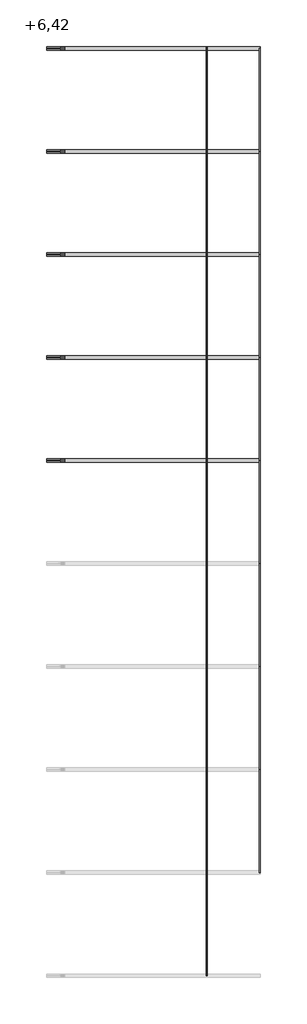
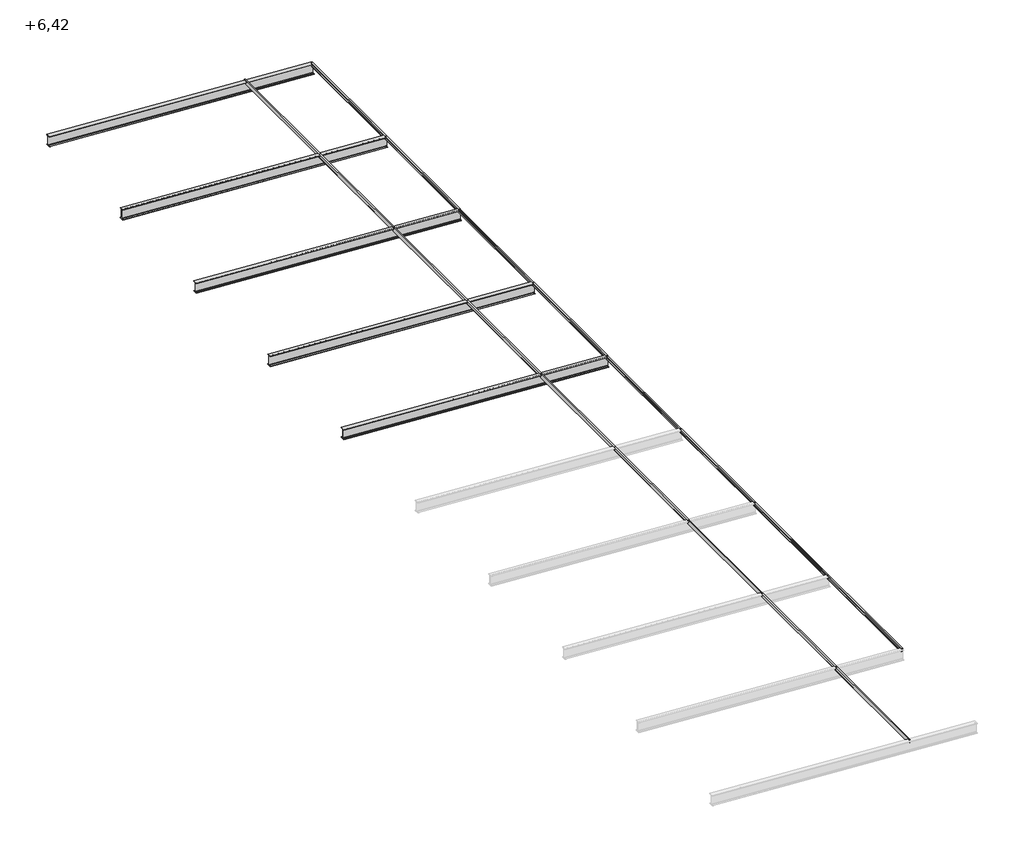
# One storey, part 2 of 2: 22 beams.
"""IFC4 building model written with IfcOpenShell, lengths in millimetres."""

from ifc_helpers import new_model, si_unit, frame, origin, place, context, project, spatial, polyline, ellipse_curve, transform, mapped, element, save
from ifc_brep_helpers import plane_surface, revolved_surface, advanced_brep
from components import c160_6856dfb5, c160_c7498115, c160_33551c21, c160_022745be

model = new_model("IFC4")

# Units and contexts
model_context = context("Model", 3, world=origin())
ifc_project = project(units=[si_unit("LENGTHUNIT", "METRE", prefix="MILLI")], contexts=[model_context])

# Site, building, storey
site = spatial("IfcSite", under=ifc_project)
building = spatial("IfcBuilding", under=site)
storey = spatial("IfcBuildingStorey", under=building, Name="+6,42", Elevation=6424.0)

# Beams
placement = place(None, origin())
c160_shape = c160_6856dfb5(model_context)
element("IfcBeam", 1, ObjectType="RPLN C - Ceowniki normalne : C160", at=placement, inside=storey, context=model_context, shape_type="MappedRepresentation", body=[
    mapped(c160_shape, transform((988.8581153, -33912.4816585, 7071.1642849), x_axis=(0.0, 1.0, 0.0), y_axis=(-0.9981748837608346, 0.0, 0.06038958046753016), z_axis=(0.06038958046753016, 0.0, 0.9981748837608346))),
])
c160_2_shape = c160_c7498115(model_context)
element("IfcBeam", 2, ObjectType="RPLN C - Ceowniki normalne : C160", at=placement, inside=storey, context=model_context, shape_type="MappedRepresentation", body=[
    mapped(c160_2_shape, transform((4109.7867288, 14087.5183415, 6882.3481038), x_axis=(0.0, -1.0, 0.0), y_axis=(0.9981748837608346, 0.0, -0.06038958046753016), z_axis=(0.06038958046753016, 0.0, 0.9981748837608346))),
])
element("IfcBeam", 3, ObjectType="RPLN C - Ceowniki normalne : C160", at=placement, inside=storey, context=model_context, shape_type="MappedRepresentation", body=[
    mapped(c160_shape, transform((988.8581153, -27912.4816585, 7071.1642849), x_axis=(0.0, 1.0, 0.0), y_axis=(-0.9981748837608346, 0.0, 0.06038958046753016), z_axis=(0.06038958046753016, 0.0, 0.9981748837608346))),
])
element("IfcBeam", 4, ObjectType="RPLN C - Ceowniki normalne : C160", at=placement, inside=storey, context=model_context, shape_type="MappedRepresentation", body=[
    mapped(c160_shape, transform((988.8581153, -21912.4816585, 7071.1642849), x_axis=(0.0, 1.0, 0.0), y_axis=(-0.9981748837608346, 0.0, 0.06038958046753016), z_axis=(0.06038958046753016, 0.0, 0.9981748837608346))),
])
element("IfcBeam", 5, ObjectType="RPLN C - Ceowniki normalne : C160", at=placement, inside=storey, context=model_context, shape_type="MappedRepresentation", body=[
    mapped(c160_shape, transform((988.8581153, -15912.4816585, 7071.1642849), x_axis=(0.0, 1.0, 0.0), y_axis=(-0.9981748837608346, 0.0, 0.06038958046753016), z_axis=(0.06038958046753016, 0.0, 0.9981748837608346))),
])
element("IfcBeam", 6, ObjectType="RPLN C - Ceowniki normalne : C160", at=placement, inside=storey, context=model_context, shape_type="MappedRepresentation", body=[
    mapped(c160_shape, transform((988.8581153, -9912.4816585, 7071.1642849), x_axis=(0.0, 1.0, 0.0), y_axis=(-0.9981748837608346, 0.0, 0.06038958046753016), z_axis=(0.06038958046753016, 0.0, 0.9981748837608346))),
])
element("IfcBeam", 7, ObjectType="RPLN C - Ceowniki normalne : C160", at=placement, inside=storey, context=model_context, shape_type="MappedRepresentation", body=[
    mapped(c160_shape, transform((988.8581153, -3912.4816585, 7071.1642849), x_axis=(0.0, 1.0, 0.0), y_axis=(-0.9981748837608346, 0.0, 0.06038958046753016), z_axis=(0.06038958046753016, 0.0, 0.9981748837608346))),
])
element("IfcBeam", 8, ObjectType="RPLN C - Ceowniki normalne : C160", at=placement, inside=storey, context=model_context, shape_type="MappedRepresentation", body=[
    mapped(c160_shape, transform((988.8581153, 2087.5183415, 7071.1642849), x_axis=(0.0, 1.0, 0.0), y_axis=(-0.9981748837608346, 0.0, 0.06038958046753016), z_axis=(0.06038958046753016, 0.0, 0.9981748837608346))),
])
element("IfcBeam", 9, ObjectType="RPLN C - Ceowniki normalne : C160", at=placement, inside=storey, context=model_context, shape_type="MappedRepresentation", body=[
    mapped(c160_shape, transform((988.8581153, 8087.5183415, 7071.1642849), x_axis=(0.0, 1.0, 0.0), y_axis=(-0.9981748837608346, 0.0, 0.06038958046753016), z_axis=(0.06038958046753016, 0.0, 0.9981748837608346))),
])
c160_3_shape = c160_33551c21(model_context)
element("IfcBeam", 10, ObjectType="RPLN C - Ceowniki normalne : C160", at=placement, inside=storey, context=model_context, shape_type="MappedRepresentation", body=[
    mapped(c160_3_shape, transform((4109.7867288, -27912.4816585, 6882.3481038), x_axis=(0.0, -1.0, 0.0), y_axis=(0.9981748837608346, 0.0, -0.06038958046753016), z_axis=(0.06038958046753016, 0.0, 0.9981748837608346))),
])
element("IfcBeam", 11, ObjectType="RPLN C - Ceowniki normalne : C160", at=placement, inside=storey, context=model_context, shape_type="MappedRepresentation", body=[
    mapped(c160_3_shape, transform((4109.7867288, -21912.4816585, 6882.3481038), x_axis=(0.0, -1.0, 0.0), y_axis=(0.9981748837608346, 0.0, -0.06038958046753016), z_axis=(0.06038958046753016, 0.0, 0.9981748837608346))),
])
element("IfcBeam", 12, ObjectType="RPLN C - Ceowniki normalne : C160", at=placement, inside=storey, context=model_context, shape_type="MappedRepresentation", body=[
    mapped(c160_3_shape, transform((4109.7867288, -15912.4816585, 6882.3481038), x_axis=(0.0, -1.0, 0.0), y_axis=(0.9981748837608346, 0.0, -0.06038958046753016), z_axis=(0.06038958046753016, 0.0, 0.9981748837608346))),
])
element("IfcBeam", 13, ObjectType="RPLN C - Ceowniki normalne : C160", at=placement, inside=storey, context=model_context, shape_type="MappedRepresentation", body=[
    mapped(c160_3_shape, transform((4109.7867288, -9912.4816585, 6882.3481038), x_axis=(0.0, -1.0, 0.0), y_axis=(0.9981748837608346, 0.0, -0.06038958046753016), z_axis=(0.06038958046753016, 0.0, 0.9981748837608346))),
])
element("IfcBeam", 14, ObjectType="RPLN C - Ceowniki normalne : C160", at=placement, inside=storey, context=model_context, shape_type="MappedRepresentation", body=[
    mapped(c160_3_shape, transform((4109.7867288, -3912.4816585, 6882.3481038), x_axis=(0.0, -1.0, 0.0), y_axis=(0.9981748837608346, 0.0, -0.06038958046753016), z_axis=(0.06038958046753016, 0.0, 0.9981748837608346))),
])
element("IfcBeam", 15, ObjectType="RPLN C - Ceowniki normalne : C160", at=placement, inside=storey, context=model_context, shape_type="MappedRepresentation", body=[
    mapped(c160_3_shape, transform((4109.7867288, 2087.5183415, 6882.3481038), x_axis=(0.0, -1.0, 0.0), y_axis=(0.9981748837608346, 0.0, -0.06038958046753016), z_axis=(0.06038958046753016, 0.0, 0.9981748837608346))),
])
element("IfcBeam", 16, ObjectType="RPLN C - Ceowniki normalne : C160", at=placement, inside=storey, context=model_context, shape_type="MappedRepresentation", body=[
    mapped(c160_3_shape, transform((4109.7867288, 8087.5183415, 6882.3481038), x_axis=(0.0, -1.0, 0.0), y_axis=(0.9981748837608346, 0.0, -0.06038958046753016), z_axis=(0.06038958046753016, 0.0, 0.9981748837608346))),
])
c160_4_shape = c160_022745be(model_context)
element("IfcBeam", 17, ObjectType="RPLN C - Ceowniki normalne : C160", at=placement, inside=storey, context=model_context, shape_type="MappedRepresentation", body=[
    mapped(c160_4_shape, transform((988.8581153, 14087.5183415, 7071.1642849), x_axis=(0.0, 1.0, 0.0), y_axis=(-0.9981748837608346, 0.0, 0.06038958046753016), z_axis=(0.06038958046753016, 0.0, 0.9981748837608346))),
])
element("IfcBeam", 18, ObjectType="RPLN IPE - Dwuteowniki równoległościenne : I500PE", at=placement, inside=storey, context=model_context, shape_type="AdvancedBrep", body=[
    advanced_brep(
    [(-8321.9964847, -6886.3816585, 7205.3878617), (-8321.9964847, -6812.4816585, 7205.3878617), (-8321.9938274, -6812.4816585, 7189.3584456), (-8321.9938274, -7012.4816585, 7189.3584456), (-8321.9964847, -7012.4816585, 7205.3878617), (-8321.9964847, -6938.5816585, 7205.3878617), (-8321.9999723, -6917.5816585, 7226.4264702), (-8322.070722, -6917.5816585, 7653.2096717), (-8322.0742096, -6938.5816585, 7674.2482802), (-8322.0742096, -7012.4816585, 7674.2482802), (-8322.0768669, -7012.4816585, 7690.2776962), (-8322.0768669, -6812.4816585, 7690.2776962), (-8322.0742096, -6812.4816585, 7674.2482802), (-8322.0742096, -6886.3816585, 7674.2482802), (-8322.070722, -6907.3816585, 7653.2096717), (-8321.9999723, -6907.3816585, 7226.4264702), (4132.9926321, -6812.4816585, 6451.8610201), (4132.9926321, -6886.3816585, 6451.8610201), (4132.9926321, -6907.3816585, 6472.8994176), (4132.9926321, -6907.3816585, 6899.6783387), (4132.9926321, -6886.3816585, 6920.7167363), (4132.9926321, -6812.4816585, 6920.7167363), (4132.9926321, -6812.4816585, 6936.7459915), (4132.9926321, -7012.4816585, 6936.7459915), (4132.9926321, -7012.4816585, 6920.7167363), (4132.9926321, -6938.5816585, 6920.7167363), (4132.9926321, -6917.5816585, 6899.6783387), (4132.9926321, -6917.5816585, 6472.8994176), (4132.9926321, -6938.5816585, 6451.8610201), (4132.9926321, -7012.4816585, 6451.8610201), (4132.9926321, -7012.4816585, 6435.8317648), (4132.9926321, -6812.4816585, 6435.8317648)],
    [
        (0, 1),
        (1, 2),
        (2, 3),
        (3, 4),
        (4, 5),
        (5, 6, ellipse_curve(frame((-8321.9999723, -6938.5816585, 7226.4264702), z_axis=(0.9999999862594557, 0.0, 0.0001657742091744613), x_axis=(-0.00016577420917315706, 0.0, 0.9999999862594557)), 21.0386088, 21.0)),
        (6, 7),
        (7, 8, ellipse_curve(frame((-8322.070722, -6938.5816585, 7653.2096717), z_axis=(0.9999999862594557, 0.0, 0.0001657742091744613), x_axis=(-0.00016577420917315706, 0.0, 0.9999999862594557)), 21.0386088, 21.0)),
        (8, 9),
        (9, 10),
        (10, 11),
        (11, 12),
        (12, 13),
        (13, 14, ellipse_curve(frame((-8322.070722, -6886.3816585, 7653.2096717), z_axis=(0.9999999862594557, 0.0, 0.0001657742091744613), x_axis=(-0.00016577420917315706, 0.0, 0.9999999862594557)), 21.0386088, 21.0)),
        (14, 15),
        (15, 0, ellipse_curve(frame((-8321.9999723, -6886.3816585, 7226.4264702), z_axis=(0.9999999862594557, 0.0, 0.0001657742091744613), x_axis=(-0.00016577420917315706, 0.0, 0.9999999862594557)), 21.0386088, 21.0)),
        (16, 17),
        (17, 18, ellipse_curve(frame((4132.9926321, -6886.3816585, 6472.8994176), z_axis=(-1.0, 0.0, 0.0), x_axis=(0.0, 0.0, 0.9999999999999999)), 21.0383975, 21.0)),
        (18, 19),
        (19, 20, ellipse_curve(frame((4132.9926321, -6886.3816585, 6899.6783387), z_axis=(-1.0, 0.0, 0.0), x_axis=(0.0, 0.0, 0.9999999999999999)), 21.0383975, 21.0)),
        (20, 21),
        (21, 22),
        (22, 23),
        (23, 24),
        (24, 25),
        (25, 26, ellipse_curve(frame((4132.9926321, -6938.5816585, 6899.6783387), z_axis=(-1.0, 0.0, 0.0), x_axis=(0.0, 0.0, 0.9999999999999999)), 21.0383975, 21.0)),
        (26, 27),
        (27, 28, ellipse_curve(frame((4132.9926321, -6938.5816585, 6472.8994176), z_axis=(-1.0, 0.0, 0.0), x_axis=(0.0, 0.0, 0.9999999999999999)), 21.0383975, 21.0)),
        (28, 29),
        (29, 30),
        (30, 31),
        (31, 16),
        (16, 1),
        (0, 17),
        (31, 2),
        (30, 3),
        (29, 4),
        (28, 5),
        (27, 6),
        (26, 7),
        (25, 8),
        (24, 9),
        (23, 10),
        (22, 11),
        (21, 12),
        (20, 13),
        (19, 14),
        (18, 15),
    ],
    [
        plane_surface(frame((-8321.8596552, -36912.4816585, 6379.9913475), z_axis=(-0.9999999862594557, 0.0, -0.0001657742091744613), x_axis=(0.0001657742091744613, 0.0, -0.9999999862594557))),
        plane_surface(frame((4132.9926321, -36912.4816585, 6983.0025864), z_axis=(1.0, 0.0, 0.0), x_axis=(0.0, 0.0, 1.0))),
        plane_surface(frame((4227.795571, -6812.4816585, 6446.1254423), z_axis=(0.06038958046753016, 0.0, 0.9981748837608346), x_axis=(-0.9981748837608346, 0.0, 0.06038958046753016))),
        plane_surface(frame((4226.8293377, -6812.4816585, 6430.1546441), z_axis=(0.0, 1.0, 0.0), x_axis=(-0.9981748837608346, 0.0, 0.06038958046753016))),
        plane_surface(frame((4226.8293377, -7012.4816585, 6430.1546441), z_axis=(-0.06038958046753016, 0.0, -0.9981748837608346), x_axis=(-0.9981748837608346, 0.0, 0.06038958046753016))),
        plane_surface(frame((4227.795571, -7012.4816585, 6446.1254423), z_axis=(0.0, -1.0, 0.0), x_axis=(-0.9981748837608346, 0.0, 0.06038958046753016))),
        plane_surface(frame((4227.795571, -6938.5816585, 6446.1254423), z_axis=(0.06038958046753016, 0.0, 0.9981748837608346), x_axis=(-0.9981748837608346, 0.0, 0.06038958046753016))),
        revolved_surface(polyline([(-8323.27164115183, -6959.5816585, 7226.503406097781), (4134.260813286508, -6959.5816585, 6472.822692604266)]), (4229.0637522, -6938.5816585, 6467.0871148), (-0.9981748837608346, 0.0, 0.06038958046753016)),
        plane_surface(frame((4254.7897134, -6917.5816585, 6892.3096153), z_axis=(0.0, -1.0, 0.0), x_axis=(-0.9981748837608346, 0.0, 0.06038958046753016))),
        revolved_surface(polyline([(-8323.342390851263, -6959.5816585, 7653.286607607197), (4134.260813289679, -6959.5816585, 6899.601613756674)]), (4254.7897134, -6938.5816585, 6892.3096153), (-0.9981748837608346, 0.0, 0.06038958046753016)),
        plane_surface(frame((4256.0578946, -7012.4816585, 6913.2712879), z_axis=(-0.06038958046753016, 0.0, -0.9981748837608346), x_axis=(-0.9981748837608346, 0.0, 0.06038958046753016))),
        plane_surface(frame((4257.0241279, -7012.4816585, 6929.242086), z_axis=(0.0, -1.0, 0.0), x_axis=(-0.9981748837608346, 0.0, 0.06038958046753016))),
        plane_surface(frame((4257.0241279, -6812.4816585, 6929.242086), z_axis=(0.06038958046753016, 0.0, 0.9981748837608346), x_axis=(-0.9981748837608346, 0.0, 0.06038958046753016))),
        plane_surface(frame((4256.0578946, -6812.4816585, 6913.2712879), z_axis=(0.0, 1.0, 0.0), x_axis=(-0.9981748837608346, 0.0, 0.06038958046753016))),
        plane_surface(frame((4256.0578946, -6886.3816585, 6913.2712879), z_axis=(-0.06038958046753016, 0.0, -0.9981748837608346), x_axis=(-0.9981748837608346, 0.0, 0.06038958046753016))),
        revolved_surface(polyline([(-8323.342390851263, -6907.3816585, 7653.286607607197), (4134.260813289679, -6907.3816585, 6899.601613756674)]), (4254.7897134, -6886.3816585, 6892.3096153), (-0.9981748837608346, 0.0, 0.06038958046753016)),
        plane_surface(frame((4229.0637522, -6907.3816585, 6467.0871148), z_axis=(0.0, 1.0, 0.0), x_axis=(-0.9981748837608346, 0.0, 0.06038958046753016))),
        revolved_surface(polyline([(-8323.27164115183, -6907.3816585, 7226.503406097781), (4134.260813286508, -6907.3816585, 6472.822692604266)]), (4229.0637522, -6886.3816585, 6467.0871148), (-0.9981748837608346, 0.0, 0.06038958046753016)),
    ],
    [
        (0, [[1, 2, 3, 4, 5, 6, 7, 8, 9, 10, 11, 12, 13, 14, 15, 16]]),
        (1, [[17, 18, 19, 20, 21, 22, 23, 24, 25, 26, 27, 28, 29, 30, 31, 32]]),
        (2, [[33, -1, 34, -17]]),
        (3, [[35, -2, -33, -32]]),
        (4, [[36, -3, -35, -31]]),
        (5, [[37, -4, -36, -30]]),
        (6, [[38, -5, -37, -29]]),
        (7, [[39, -6, -38, -28]]),
        (8, [[40, -7, -39, -27]]),
        (9, [[41, -8, -40, -26]]),
        (10, [[42, -9, -41, -25]]),
        (11, [[43, -10, -42, -24]]),
        (12, [[44, -11, -43, -23]]),
        (13, [[45, -12, -44, -22]]),
        (14, [[46, -13, -45, -21]]),
        (15, [[47, -14, -46, -20]]),
        (16, [[48, -15, -47, -19]]),
        (17, [[-34, -16, -48, -18]]),
    ],
),
])
element("IfcBeam", 19, ObjectType="RPLN IPE - Dwuteowniki równoległościenne : I500PE", at=placement, inside=storey, context=model_context, shape_type="AdvancedBrep", body=[
    advanced_brep(
    [(-8321.9964847, -886.3816585, 7205.3878617), (-8321.9964847, -812.4816585, 7205.3878617), (-8321.9938274, -812.4816585, 7189.3584456), (-8321.9938274, -1012.4816585, 7189.3584456), (-8321.9964847, -1012.4816585, 7205.3878617), (-8321.9964847, -938.5816585, 7205.3878617), (-8321.9999723, -917.5816585, 7226.4264702), (-8322.070722, -917.5816585, 7653.2096717), (-8322.0742096, -938.5816585, 7674.2482802), (-8322.0742096, -1012.4816585, 7674.2482802), (-8322.0768669, -1012.4816585, 7690.2776962), (-8322.0768669, -812.4816585, 7690.2776962), (-8322.0742096, -812.4816585, 7674.2482802), (-8322.0742096, -886.3816585, 7674.2482802), (-8322.070722, -907.3816585, 7653.2096717), (-8321.9999723, -907.3816585, 7226.4264702), (4132.9926321, -812.4816585, 6451.8610201), (4132.9926321, -886.3816585, 6451.8610201), (4132.9926321, -907.3816585, 6472.8994176), (4132.9926321, -907.3816585, 6899.6783387), (4132.9926321, -886.3816585, 6920.7167363), (4132.9926321, -812.4816585, 6920.7167363), (4132.9926321, -812.4816585, 6936.7459915), (4132.9926321, -1012.4816585, 6936.7459915), (4132.9926321, -1012.4816585, 6920.7167363), (4132.9926321, -938.5816585, 6920.7167363), (4132.9926321, -917.5816585, 6899.6783387), (4132.9926321, -917.5816585, 6472.8994176), (4132.9926321, -938.5816585, 6451.8610201), (4132.9926321, -1012.4816585, 6451.8610201), (4132.9926321, -1012.4816585, 6435.8317648), (4132.9926321, -812.4816585, 6435.8317648)],
    [
        (0, 1),
        (1, 2),
        (2, 3),
        (3, 4),
        (4, 5),
        (5, 6, ellipse_curve(frame((-8321.9999723, -938.5816585, 7226.4264702), z_axis=(0.9999999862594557, 0.0, 0.0001657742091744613), x_axis=(-0.00016577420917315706, 0.0, 0.9999999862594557)), 21.0386088, 21.0)),
        (6, 7),
        (7, 8, ellipse_curve(frame((-8322.070722, -938.5816585, 7653.2096717), z_axis=(0.9999999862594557, 0.0, 0.0001657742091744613), x_axis=(-0.00016577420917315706, 0.0, 0.9999999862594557)), 21.0386088, 21.0)),
        (8, 9),
        (9, 10),
        (10, 11),
        (11, 12),
        (12, 13),
        (13, 14, ellipse_curve(frame((-8322.070722, -886.3816585, 7653.2096717), z_axis=(0.9999999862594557, 0.0, 0.0001657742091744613), x_axis=(-0.00016577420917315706, 0.0, 0.9999999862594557)), 21.0386088, 21.0)),
        (14, 15),
        (15, 0, ellipse_curve(frame((-8321.9999723, -886.3816585, 7226.4264702), z_axis=(0.9999999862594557, 0.0, 0.0001657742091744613), x_axis=(-0.00016577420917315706, 0.0, 0.9999999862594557)), 21.0386088, 21.0)),
        (16, 17),
        (17, 18, ellipse_curve(frame((4132.9926321, -886.3816585, 6472.8994176), z_axis=(-1.0, 0.0, 0.0), x_axis=(0.0, 0.0, 0.9999999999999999)), 21.0383975, 21.0)),
        (18, 19),
        (19, 20, ellipse_curve(frame((4132.9926321, -886.3816585, 6899.6783387), z_axis=(-1.0, 0.0, 0.0), x_axis=(0.0, 0.0, 0.9999999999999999)), 21.0383975, 21.0)),
        (20, 21),
        (21, 22),
        (22, 23),
        (23, 24),
        (24, 25),
        (25, 26, ellipse_curve(frame((4132.9926321, -938.5816585, 6899.6783387), z_axis=(-1.0, 0.0, 0.0), x_axis=(0.0, 0.0, 0.9999999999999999)), 21.0383975, 21.0)),
        (26, 27),
        (27, 28, ellipse_curve(frame((4132.9926321, -938.5816585, 6472.8994176), z_axis=(-1.0, 0.0, 0.0), x_axis=(0.0, 0.0, 0.9999999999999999)), 21.0383975, 21.0)),
        (28, 29),
        (29, 30),
        (30, 31),
        (31, 16),
        (16, 1),
        (0, 17),
        (31, 2),
        (30, 3),
        (29, 4),
        (28, 5),
        (27, 6),
        (26, 7),
        (25, 8),
        (24, 9),
        (23, 10),
        (22, 11),
        (21, 12),
        (20, 13),
        (19, 14),
        (18, 15),
    ],
    [
        plane_surface(frame((-8321.8596552, -36912.4816585, 6379.9913475), z_axis=(-0.9999999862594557, 0.0, -0.0001657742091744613), x_axis=(0.0001657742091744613, 0.0, -0.9999999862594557))),
        plane_surface(frame((4132.9926321, -36912.4816585, 6983.0025864), z_axis=(1.0, 0.0, 0.0), x_axis=(0.0, 0.0, 1.0))),
        plane_surface(frame((4227.795571, -812.4816585, 6446.1254423), z_axis=(0.06038958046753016, 0.0, 0.9981748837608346), x_axis=(-0.9981748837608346, 0.0, 0.06038958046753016))),
        plane_surface(frame((4226.8293377, -812.4816585, 6430.1546441), z_axis=(0.0, 1.0, 0.0), x_axis=(-0.9981748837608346, 0.0, 0.06038958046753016))),
        plane_surface(frame((4226.8293377, -1012.4816585, 6430.1546441), z_axis=(-0.06038958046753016, 0.0, -0.9981748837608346), x_axis=(-0.9981748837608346, 0.0, 0.06038958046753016))),
        plane_surface(frame((4227.795571, -1012.4816585, 6446.1254423), z_axis=(0.0, -1.0, 0.0), x_axis=(-0.9981748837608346, 0.0, 0.06038958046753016))),
        plane_surface(frame((4227.795571, -938.5816585, 6446.1254423), z_axis=(0.06038958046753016, 0.0, 0.9981748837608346), x_axis=(-0.9981748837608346, 0.0, 0.06038958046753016))),
        revolved_surface(polyline([(-8323.27164115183, -959.5816585, 7226.503406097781), (4134.260813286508, -959.5816585, 6472.822692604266)]), (4229.0637522, -938.5816585, 6467.0871148), (-0.9981748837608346, 0.0, 0.06038958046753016)),
        plane_surface(frame((4254.7897134, -917.5816585, 6892.3096153), z_axis=(0.0, -1.0, 0.0), x_axis=(-0.9981748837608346, 0.0, 0.06038958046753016))),
        revolved_surface(polyline([(-8323.342390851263, -959.5816585, 7653.286607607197), (4134.260813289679, -959.5816585, 6899.601613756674)]), (4254.7897134, -938.5816585, 6892.3096153), (-0.9981748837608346, 0.0, 0.06038958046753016)),
        plane_surface(frame((4256.0578946, -1012.4816585, 6913.2712879), z_axis=(-0.06038958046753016, 0.0, -0.9981748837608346), x_axis=(-0.9981748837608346, 0.0, 0.06038958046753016))),
        plane_surface(frame((4257.0241279, -1012.4816585, 6929.242086), z_axis=(0.0, -1.0, 0.0), x_axis=(-0.9981748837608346, 0.0, 0.06038958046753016))),
        plane_surface(frame((4257.0241279, -812.4816585, 6929.242086), z_axis=(0.06038958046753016, 0.0, 0.9981748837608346), x_axis=(-0.9981748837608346, 0.0, 0.06038958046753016))),
        plane_surface(frame((4256.0578946, -812.4816585, 6913.2712879), z_axis=(0.0, 1.0, 0.0), x_axis=(-0.9981748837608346, 0.0, 0.06038958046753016))),
        plane_surface(frame((4256.0578946, -886.3816585, 6913.2712879), z_axis=(-0.06038958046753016, 0.0, -0.9981748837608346), x_axis=(-0.9981748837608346, 0.0, 0.06038958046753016))),
        revolved_surface(polyline([(-8323.342390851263, -907.3816585, 7653.286607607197), (4134.260813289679, -907.3816585, 6899.601613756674)]), (4254.7897134, -886.3816585, 6892.3096153), (-0.9981748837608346, 0.0, 0.06038958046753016)),
        plane_surface(frame((4229.0637522, -907.3816585, 6467.0871148), z_axis=(0.0, 1.0, 0.0), x_axis=(-0.9981748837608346, 0.0, 0.06038958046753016))),
        revolved_surface(polyline([(-8323.27164115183, -907.3816585, 7226.503406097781), (4134.260813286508, -907.3816585, 6472.822692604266)]), (4229.0637522, -886.3816585, 6467.0871148), (-0.9981748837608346, 0.0, 0.06038958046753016)),
    ],
    [
        (0, [[1, 2, 3, 4, 5, 6, 7, 8, 9, 10, 11, 12, 13, 14, 15, 16]]),
        (1, [[17, 18, 19, 20, 21, 22, 23, 24, 25, 26, 27, 28, 29, 30, 31, 32]]),
        (2, [[33, -1, 34, -17]]),
        (3, [[35, -2, -33, -32]]),
        (4, [[36, -3, -35, -31]]),
        (5, [[37, -4, -36, -30]]),
        (6, [[38, -5, -37, -29]]),
        (7, [[39, -6, -38, -28]]),
        (8, [[40, -7, -39, -27]]),
        (9, [[41, -8, -40, -26]]),
        (10, [[42, -9, -41, -25]]),
        (11, [[43, -10, -42, -24]]),
        (12, [[44, -11, -43, -23]]),
        (13, [[45, -12, -44, -22]]),
        (14, [[46, -13, -45, -21]]),
        (15, [[47, -14, -46, -20]]),
        (16, [[48, -15, -47, -19]]),
        (17, [[-34, -16, -48, -18]]),
    ],
),
])
element("IfcBeam", 20, ObjectType="RPLN IPE - Dwuteowniki równoległościenne : I500PE", at=placement, inside=storey, context=model_context, shape_type="AdvancedBrep", body=[
    advanced_brep(
    [(-8321.9964847, 5113.6183415, 7205.3878617), (-8321.9964847, 5187.5183415, 7205.3878617), (-8321.9938274, 5187.5183415, 7189.3584456), (-8321.9938274, 4987.5183415, 7189.3584456), (-8321.9964847, 4987.5183415, 7205.3878617), (-8321.9964847, 5061.4183415, 7205.3878617), (-8321.9999723, 5082.4183415, 7226.4264702), (-8322.070722, 5082.4183415, 7653.2096717), (-8322.0742096, 5061.4183415, 7674.2482802), (-8322.0742096, 4987.5183415, 7674.2482802), (-8322.0768669, 4987.5183415, 7690.2776962), (-8322.0768669, 5187.5183415, 7690.2776962), (-8322.0742096, 5187.5183415, 7674.2482802), (-8322.0742096, 5113.6183415, 7674.2482802), (-8322.070722, 5092.6183415, 7653.2096717), (-8321.9999723, 5092.6183415, 7226.4264702), (4132.9926321, 5187.5183415, 6451.8610201), (4132.9926321, 5113.6183415, 6451.8610201), (4132.9926321, 5092.6183415, 6472.8994176), (4132.9926321, 5092.6183415, 6899.6783387), (4132.9926321, 5113.6183415, 6920.7167363), (4132.9926321, 5187.5183415, 6920.7167363), (4132.9926321, 5187.5183415, 6936.7459915), (4132.9926321, 4987.5183415, 6936.7459915), (4132.9926321, 4987.5183415, 6920.7167363), (4132.9926321, 5061.4183415, 6920.7167363), (4132.9926321, 5082.4183415, 6899.6783387), (4132.9926321, 5082.4183415, 6472.8994176), (4132.9926321, 5061.4183415, 6451.8610201), (4132.9926321, 4987.5183415, 6451.8610201), (4132.9926321, 4987.5183415, 6435.8317648), (4132.9926321, 5187.5183415, 6435.8317648)],
    [
        (0, 1),
        (1, 2),
        (2, 3),
        (3, 4),
        (4, 5),
        (5, 6, ellipse_curve(frame((-8321.9999723, 5061.4183415, 7226.4264702), z_axis=(0.9999999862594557, 0.0, 0.0001657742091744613), x_axis=(-0.00016577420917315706, 0.0, 0.9999999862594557)), 21.0386088, 21.0)),
        (6, 7),
        (7, 8, ellipse_curve(frame((-8322.070722, 5061.4183415, 7653.2096717), z_axis=(0.9999999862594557, 0.0, 0.0001657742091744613), x_axis=(-0.00016577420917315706, 0.0, 0.9999999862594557)), 21.0386088, 21.0)),
        (8, 9),
        (9, 10),
        (10, 11),
        (11, 12),
        (12, 13),
        (13, 14, ellipse_curve(frame((-8322.070722, 5113.6183415, 7653.2096717), z_axis=(0.9999999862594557, 0.0, 0.0001657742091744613), x_axis=(-0.00016577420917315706, 0.0, 0.9999999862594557)), 21.0386088, 21.0)),
        (14, 15),
        (15, 0, ellipse_curve(frame((-8321.9999723, 5113.6183415, 7226.4264702), z_axis=(0.9999999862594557, 0.0, 0.0001657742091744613), x_axis=(-0.00016577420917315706, 0.0, 0.9999999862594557)), 21.0386088, 21.0)),
        (16, 17),
        (17, 18, ellipse_curve(frame((4132.9926321, 5113.6183415, 6472.8994176), z_axis=(-1.0, 0.0, 0.0), x_axis=(0.0, 0.0, 0.9999999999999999)), 21.0383975, 21.0)),
        (18, 19),
        (19, 20, ellipse_curve(frame((4132.9926321, 5113.6183415, 6899.6783387), z_axis=(-1.0, 0.0, 0.0), x_axis=(0.0, 0.0, 0.9999999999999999)), 21.0383975, 21.0)),
        (20, 21),
        (21, 22),
        (22, 23),
        (23, 24),
        (24, 25),
        (25, 26, ellipse_curve(frame((4132.9926321, 5061.4183415, 6899.6783387), z_axis=(-1.0, 0.0, 0.0), x_axis=(0.0, 0.0, 0.9999999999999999)), 21.0383975, 21.0)),
        (26, 27),
        (27, 28, ellipse_curve(frame((4132.9926321, 5061.4183415, 6472.8994176), z_axis=(-1.0, 0.0, 0.0), x_axis=(0.0, 0.0, 0.9999999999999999)), 21.0383975, 21.0)),
        (28, 29),
        (29, 30),
        (30, 31),
        (31, 16),
        (16, 1),
        (0, 17),
        (31, 2),
        (30, 3),
        (29, 4),
        (28, 5),
        (27, 6),
        (26, 7),
        (25, 8),
        (24, 9),
        (23, 10),
        (22, 11),
        (21, 12),
        (20, 13),
        (19, 14),
        (18, 15),
    ],
    [
        plane_surface(frame((-8321.8596552, -36912.4816585, 6379.9913475), z_axis=(-0.9999999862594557, 0.0, -0.0001657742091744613), x_axis=(0.0001657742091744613, 0.0, -0.9999999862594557))),
        plane_surface(frame((4132.9926321, -36912.4816585, 6983.0025864), z_axis=(1.0, 0.0, 0.0), x_axis=(0.0, 0.0, 1.0))),
        plane_surface(frame((4227.795571, 5187.5183415, 6446.1254423), z_axis=(0.06038958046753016, 0.0, 0.9981748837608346), x_axis=(-0.9981748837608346, 0.0, 0.06038958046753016))),
        plane_surface(frame((4226.8293377, 5187.5183415, 6430.1546441), z_axis=(0.0, 1.0, 0.0), x_axis=(-0.9981748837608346, 0.0, 0.06038958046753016))),
        plane_surface(frame((4226.8293377, 4987.5183415, 6430.1546441), z_axis=(-0.06038958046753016, 0.0, -0.9981748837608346), x_axis=(-0.9981748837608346, 0.0, 0.06038958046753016))),
        plane_surface(frame((4227.795571, 4987.5183415, 6446.1254423), z_axis=(0.0, -1.0, 0.0), x_axis=(-0.9981748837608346, 0.0, 0.06038958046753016))),
        plane_surface(frame((4227.795571, 5061.4183415, 6446.1254423), z_axis=(0.06038958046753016, 0.0, 0.9981748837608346), x_axis=(-0.9981748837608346, 0.0, 0.06038958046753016))),
        revolved_surface(polyline([(-8323.27164115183, 5040.4183415, 7226.503406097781), (4134.260813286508, 5040.4183415, 6472.822692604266)]), (4229.0637522, 5061.4183415, 6467.0871148), (-0.9981748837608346, 0.0, 0.06038958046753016)),
        plane_surface(frame((4254.7897134, 5082.4183415, 6892.3096153), z_axis=(0.0, -1.0, 0.0), x_axis=(-0.9981748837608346, 0.0, 0.06038958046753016))),
        revolved_surface(polyline([(-8323.342390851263, 5040.4183415, 7653.286607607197), (4134.260813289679, 5040.4183415, 6899.601613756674)]), (4254.7897134, 5061.4183415, 6892.3096153), (-0.9981748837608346, 0.0, 0.06038958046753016)),
        plane_surface(frame((4256.0578946, 4987.5183415, 6913.2712879), z_axis=(-0.06038958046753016, 0.0, -0.9981748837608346), x_axis=(-0.9981748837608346, 0.0, 0.06038958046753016))),
        plane_surface(frame((4257.0241279, 4987.5183415, 6929.242086), z_axis=(0.0, -1.0, 0.0), x_axis=(-0.9981748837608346, 0.0, 0.06038958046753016))),
        plane_surface(frame((4257.0241279, 5187.5183415, 6929.242086), z_axis=(0.06038958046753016, 0.0, 0.9981748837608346), x_axis=(-0.9981748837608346, 0.0, 0.06038958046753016))),
        plane_surface(frame((4256.0578946, 5187.5183415, 6913.2712879), z_axis=(0.0, 1.0, 0.0), x_axis=(-0.9981748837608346, 0.0, 0.06038958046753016))),
        plane_surface(frame((4256.0578946, 5113.6183415, 6913.2712879), z_axis=(-0.06038958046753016, 0.0, -0.9981748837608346), x_axis=(-0.9981748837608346, 0.0, 0.06038958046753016))),
        revolved_surface(polyline([(-8323.342390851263, 5092.6183415, 7653.286607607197), (4134.260813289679, 5092.6183415, 6899.601613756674)]), (4254.7897134, 5113.6183415, 6892.3096153), (-0.9981748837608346, 0.0, 0.06038958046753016)),
        plane_surface(frame((4229.0637522, 5092.6183415, 6467.0871148), z_axis=(0.0, 1.0, 0.0), x_axis=(-0.9981748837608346, 0.0, 0.06038958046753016))),
        revolved_surface(polyline([(-8323.27164115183, 5092.6183415, 7226.503406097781), (4134.260813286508, 5092.6183415, 6472.822692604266)]), (4229.0637522, 5113.6183415, 6467.0871148), (-0.9981748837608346, 0.0, 0.06038958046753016)),
    ],
    [
        (0, [[1, 2, 3, 4, 5, 6, 7, 8, 9, 10, 11, 12, 13, 14, 15, 16]]),
        (1, [[17, 18, 19, 20, 21, 22, 23, 24, 25, 26, 27, 28, 29, 30, 31, 32]]),
        (2, [[33, -1, 34, -17]]),
        (3, [[35, -2, -33, -32]]),
        (4, [[36, -3, -35, -31]]),
        (5, [[37, -4, -36, -30]]),
        (6, [[38, -5, -37, -29]]),
        (7, [[39, -6, -38, -28]]),
        (8, [[40, -7, -39, -27]]),
        (9, [[41, -8, -40, -26]]),
        (10, [[42, -9, -41, -25]]),
        (11, [[43, -10, -42, -24]]),
        (12, [[44, -11, -43, -23]]),
        (13, [[45, -12, -44, -22]]),
        (14, [[46, -13, -45, -21]]),
        (15, [[47, -14, -46, -20]]),
        (16, [[48, -15, -47, -19]]),
        (17, [[-34, -16, -48, -18]]),
    ],
),
])
element("IfcBeam", 21, ObjectType="RPLN IPE - Dwuteowniki równoległościenne : I500PE", at=placement, inside=storey, context=model_context, shape_type="AdvancedBrep", body=[
    advanced_brep(
    [(-8321.9964847, 11113.6183415, 7205.3878617), (-8321.9964847, 11187.5183415, 7205.3878617), (-8321.9938274, 11187.5183415, 7189.3584456), (-8321.9938274, 10987.5183415, 7189.3584456), (-8321.9964847, 10987.5183415, 7205.3878617), (-8321.9964847, 11061.4183415, 7205.3878617), (-8321.9999723, 11082.4183415, 7226.4264702), (-8322.070722, 11082.4183415, 7653.2096717), (-8322.0742096, 11061.4183415, 7674.2482802), (-8322.0742096, 10987.5183415, 7674.2482802), (-8322.0768669, 10987.5183415, 7690.2776962), (-8322.0768669, 11187.5183415, 7690.2776962), (-8322.0742096, 11187.5183415, 7674.2482802), (-8322.0742096, 11113.6183415, 7674.2482802), (-8322.070722, 11092.6183415, 7653.2096717), (-8321.9999723, 11092.6183415, 7226.4264702), (4132.9926321, 11187.5183415, 6451.8610201), (4132.9926321, 11113.6183415, 6451.8610201), (4132.9926321, 11092.6183415, 6472.8994176), (4132.9926321, 11092.6183415, 6899.6783387), (4132.9926321, 11113.6183415, 6920.7167363), (4132.9926321, 11187.5183415, 6920.7167363), (4132.9926321, 11187.5183415, 6936.7459915), (4132.9926321, 10987.5183415, 6936.7459915), (4132.9926321, 10987.5183415, 6920.7167363), (4132.9926321, 11061.4183415, 6920.7167363), (4132.9926321, 11082.4183415, 6899.6783387), (4132.9926321, 11082.4183415, 6472.8994176), (4132.9926321, 11061.4183415, 6451.8610201), (4132.9926321, 10987.5183415, 6451.8610201), (4132.9926321, 10987.5183415, 6435.8317648), (4132.9926321, 11187.5183415, 6435.8317648)],
    [
        (0, 1),
        (1, 2),
        (2, 3),
        (3, 4),
        (4, 5),
        (5, 6, ellipse_curve(frame((-8321.9999723, 11061.4183415, 7226.4264702), z_axis=(0.9999999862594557, 0.0, 0.0001657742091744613), x_axis=(-0.00016577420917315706, 0.0, 0.9999999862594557)), 21.0386088, 21.0)),
        (6, 7),
        (7, 8, ellipse_curve(frame((-8322.070722, 11061.4183415, 7653.2096717), z_axis=(0.9999999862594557, 0.0, 0.0001657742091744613), x_axis=(-0.00016577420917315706, 0.0, 0.9999999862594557)), 21.0386088, 21.0)),
        (8, 9),
        (9, 10),
        (10, 11),
        (11, 12),
        (12, 13),
        (13, 14, ellipse_curve(frame((-8322.070722, 11113.6183415, 7653.2096717), z_axis=(0.9999999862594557, 0.0, 0.0001657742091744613), x_axis=(-0.00016577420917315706, 0.0, 0.9999999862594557)), 21.0386088, 21.0)),
        (14, 15),
        (15, 0, ellipse_curve(frame((-8321.9999723, 11113.6183415, 7226.4264702), z_axis=(0.9999999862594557, 0.0, 0.0001657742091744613), x_axis=(-0.00016577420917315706, 0.0, 0.9999999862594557)), 21.0386088, 21.0)),
        (16, 17),
        (17, 18, ellipse_curve(frame((4132.9926321, 11113.6183415, 6472.8994176), z_axis=(-1.0, 0.0, 0.0), x_axis=(0.0, 0.0, 0.9999999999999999)), 21.0383975, 21.0)),
        (18, 19),
        (19, 20, ellipse_curve(frame((4132.9926321, 11113.6183415, 6899.6783387), z_axis=(-1.0, 0.0, 0.0), x_axis=(0.0, 0.0, 0.9999999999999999)), 21.0383975, 21.0)),
        (20, 21),
        (21, 22),
        (22, 23),
        (23, 24),
        (24, 25),
        (25, 26, ellipse_curve(frame((4132.9926321, 11061.4183415, 6899.6783387), z_axis=(-1.0, 0.0, 0.0), x_axis=(0.0, 0.0, 0.9999999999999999)), 21.0383975, 21.0)),
        (26, 27),
        (27, 28, ellipse_curve(frame((4132.9926321, 11061.4183415, 6472.8994176), z_axis=(-1.0, 0.0, 0.0), x_axis=(0.0, 0.0, 0.9999999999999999)), 21.0383975, 21.0)),
        (28, 29),
        (29, 30),
        (30, 31),
        (31, 16),
        (16, 1),
        (0, 17),
        (31, 2),
        (30, 3),
        (29, 4),
        (28, 5),
        (27, 6),
        (26, 7),
        (25, 8),
        (24, 9),
        (23, 10),
        (22, 11),
        (21, 12),
        (20, 13),
        (19, 14),
        (18, 15),
    ],
    [
        plane_surface(frame((-8321.8596552, -36912.4816585, 6379.9913475), z_axis=(-0.9999999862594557, 0.0, -0.0001657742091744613), x_axis=(0.0001657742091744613, 0.0, -0.9999999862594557))),
        plane_surface(frame((4132.9926321, -36912.4816585, 6983.0025864), z_axis=(1.0, 0.0, 0.0), x_axis=(0.0, 0.0, 1.0))),
        plane_surface(frame((4227.795571, 11187.5183415, 6446.1254423), z_axis=(0.06038958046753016, 0.0, 0.9981748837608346), x_axis=(-0.9981748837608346, 0.0, 0.06038958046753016))),
        plane_surface(frame((4226.8293377, 11187.5183415, 6430.1546441), z_axis=(0.0, 1.0, 0.0), x_axis=(-0.9981748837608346, 0.0, 0.06038958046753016))),
        plane_surface(frame((4226.8293377, 10987.5183415, 6430.1546441), z_axis=(-0.06038958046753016, 0.0, -0.9981748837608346), x_axis=(-0.9981748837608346, 0.0, 0.06038958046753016))),
        plane_surface(frame((4227.795571, 10987.5183415, 6446.1254423), z_axis=(0.0, -1.0, 0.0), x_axis=(-0.9981748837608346, 0.0, 0.06038958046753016))),
        plane_surface(frame((4227.795571, 11061.4183415, 6446.1254423), z_axis=(0.06038958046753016, 0.0, 0.9981748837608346), x_axis=(-0.9981748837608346, 0.0, 0.06038958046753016))),
        revolved_surface(polyline([(-8323.27164115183, 11040.4183415, 7226.503406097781), (4134.260813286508, 11040.4183415, 6472.822692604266)]), (4229.0637522, 11061.4183415, 6467.0871148), (-0.9981748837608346, 0.0, 0.06038958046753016)),
        plane_surface(frame((4254.7897134, 11082.4183415, 6892.3096153), z_axis=(0.0, -1.0, 0.0), x_axis=(-0.9981748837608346, 0.0, 0.06038958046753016))),
        revolved_surface(polyline([(-8323.342390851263, 11040.4183415, 7653.286607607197), (4134.260813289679, 11040.4183415, 6899.601613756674)]), (4254.7897134, 11061.4183415, 6892.3096153), (-0.9981748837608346, 0.0, 0.06038958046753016)),
        plane_surface(frame((4256.0578946, 10987.5183415, 6913.2712879), z_axis=(-0.06038958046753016, 0.0, -0.9981748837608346), x_axis=(-0.9981748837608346, 0.0, 0.06038958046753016))),
        plane_surface(frame((4257.0241279, 10987.5183415, 6929.242086), z_axis=(0.0, -1.0, 0.0), x_axis=(-0.9981748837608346, 0.0, 0.06038958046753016))),
        plane_surface(frame((4257.0241279, 11187.5183415, 6929.242086), z_axis=(0.06038958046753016, 0.0, 0.9981748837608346), x_axis=(-0.9981748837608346, 0.0, 0.06038958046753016))),
        plane_surface(frame((4256.0578946, 11187.5183415, 6913.2712879), z_axis=(0.0, 1.0, 0.0), x_axis=(-0.9981748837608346, 0.0, 0.06038958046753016))),
        plane_surface(frame((4256.0578946, 11113.6183415, 6913.2712879), z_axis=(-0.06038958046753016, 0.0, -0.9981748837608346), x_axis=(-0.9981748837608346, 0.0, 0.06038958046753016))),
        revolved_surface(polyline([(-8323.342390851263, 11092.6183415, 7653.286607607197), (4134.260813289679, 11092.6183415, 6899.601613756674)]), (4254.7897134, 11113.6183415, 6892.3096153), (-0.9981748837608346, 0.0, 0.06038958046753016)),
        plane_surface(frame((4229.0637522, 11092.6183415, 6467.0871148), z_axis=(0.0, 1.0, 0.0), x_axis=(-0.9981748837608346, 0.0, 0.06038958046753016))),
        revolved_surface(polyline([(-8323.27164115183, 11092.6183415, 7226.503406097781), (4134.260813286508, 11092.6183415, 6472.822692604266)]), (4229.0637522, 11113.6183415, 6467.0871148), (-0.9981748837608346, 0.0, 0.06038958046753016)),
    ],
    [
        (0, [[1, 2, 3, 4, 5, 6, 7, 8, 9, 10, 11, 12, 13, 14, 15, 16]]),
        (1, [[17, 18, 19, 20, 21, 22, 23, 24, 25, 26, 27, 28, 29, 30, 31, 32]]),
        (2, [[33, -1, 34, -17]]),
        (3, [[35, -2, -33, -32]]),
        (4, [[36, -3, -35, -31]]),
        (5, [[37, -4, -36, -30]]),
        (6, [[38, -5, -37, -29]]),
        (7, [[39, -6, -38, -28]]),
        (8, [[40, -7, -39, -27]]),
        (9, [[41, -8, -40, -26]]),
        (10, [[42, -9, -41, -25]]),
        (11, [[43, -10, -42, -24]]),
        (12, [[44, -11, -43, -23]]),
        (13, [[45, -12, -44, -22]]),
        (14, [[46, -13, -45, -21]]),
        (15, [[47, -14, -46, -20]]),
        (16, [[48, -15, -47, -19]]),
        (17, [[-34, -16, -48, -18]]),
    ],
),
])
element("IfcBeam", 22, ObjectType="RPLN IPE - Dwuteowniki równoległościenne : I500PE", at=placement, inside=storey, context=model_context, shape_type="AdvancedBrep", body=[
    advanced_brep(
    [(-8321.9964847, 17113.6183415, 7205.3878617), (-8321.9964847, 17187.5183415, 7205.3878617), (-8321.9938274, 17187.5183415, 7189.3584456), (-8321.9938274, 16987.5183415, 7189.3584456), (-8321.9964847, 16987.5183415, 7205.3878617), (-8321.9964847, 17061.4183415, 7205.3878617), (-8321.9999723, 17082.4183415, 7226.4264702), (-8322.070722, 17082.4183415, 7653.2096717), (-8322.0742096, 17061.4183415, 7674.2482802), (-8322.0742096, 16987.5183415, 7674.2482802), (-8322.0768669, 16987.5183415, 7690.2776962), (-8322.0768669, 17187.5183415, 7690.2776962), (-8322.0742096, 17187.5183415, 7674.2482802), (-8322.0742096, 17113.6183415, 7674.2482802), (-8322.070722, 17092.6183415, 7653.2096717), (-8321.9999723, 17092.6183415, 7226.4264702), (4132.9926321, 17187.5183415, 6451.8610201), (4132.9926321, 17113.6183415, 6451.8610201), (4132.9926321, 17092.6183415, 6472.8994176), (4132.9926321, 17092.6183415, 6899.6783387), (4132.9926321, 17113.6183415, 6920.7167363), (4132.9926321, 17187.5183415, 6920.7167363), (4132.9926321, 17187.5183415, 6936.7459915), (4132.9926321, 16987.5183415, 6936.7459915), (4132.9926321, 16987.5183415, 6920.7167363), (4132.9926321, 17061.4183415, 6920.7167363), (4132.9926321, 17082.4183415, 6899.6783387), (4132.9926321, 17082.4183415, 6472.8994176), (4132.9926321, 17061.4183415, 6451.8610201), (4132.9926321, 16987.5183415, 6451.8610201), (4132.9926321, 16987.5183415, 6435.8317648), (4132.9926321, 17187.5183415, 6435.8317648)],
    [
        (0, 1),
        (1, 2),
        (2, 3),
        (3, 4),
        (4, 5),
        (5, 6, ellipse_curve(frame((-8321.9999723, 17061.4183415, 7226.4264702), z_axis=(0.9999999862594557, 0.0, 0.0001657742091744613), x_axis=(-0.00016577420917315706, 0.0, 0.9999999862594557)), 21.0386088, 21.0)),
        (6, 7),
        (7, 8, ellipse_curve(frame((-8322.070722, 17061.4183415, 7653.2096717), z_axis=(0.9999999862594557, 0.0, 0.0001657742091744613), x_axis=(-0.00016577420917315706, 0.0, 0.9999999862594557)), 21.0386088, 21.0)),
        (8, 9),
        (9, 10),
        (10, 11),
        (11, 12),
        (12, 13),
        (13, 14, ellipse_curve(frame((-8322.070722, 17113.6183415, 7653.2096717), z_axis=(0.9999999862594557, 0.0, 0.0001657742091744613), x_axis=(-0.00016577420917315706, 0.0, 0.9999999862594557)), 21.0386088, 21.0)),
        (14, 15),
        (15, 0, ellipse_curve(frame((-8321.9999723, 17113.6183415, 7226.4264702), z_axis=(0.9999999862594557, 0.0, 0.0001657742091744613), x_axis=(-0.00016577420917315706, 0.0, 0.9999999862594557)), 21.0386088, 21.0)),
        (16, 17),
        (17, 18, ellipse_curve(frame((4132.9926321, 17113.6183415, 6472.8994176), z_axis=(-1.0, 0.0, 0.0), x_axis=(0.0, 0.0, 0.9999999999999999)), 21.0383975, 21.0)),
        (18, 19),
        (19, 20, ellipse_curve(frame((4132.9926321, 17113.6183415, 6899.6783387), z_axis=(-1.0, 0.0, 0.0), x_axis=(0.0, 0.0, 0.9999999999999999)), 21.0383975, 21.0)),
        (20, 21),
        (21, 22),
        (22, 23),
        (23, 24),
        (24, 25),
        (25, 26, ellipse_curve(frame((4132.9926321, 17061.4183415, 6899.6783387), z_axis=(-1.0, 0.0, 0.0), x_axis=(0.0, 0.0, 0.9999999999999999)), 21.0383975, 21.0)),
        (26, 27),
        (27, 28, ellipse_curve(frame((4132.9926321, 17061.4183415, 6472.8994176), z_axis=(-1.0, 0.0, 0.0), x_axis=(0.0, 0.0, 0.9999999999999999)), 21.0383975, 21.0)),
        (28, 29),
        (29, 30),
        (30, 31),
        (31, 16),
        (16, 1),
        (0, 17),
        (31, 2),
        (30, 3),
        (29, 4),
        (28, 5),
        (27, 6),
        (26, 7),
        (25, 8),
        (24, 9),
        (23, 10),
        (22, 11),
        (21, 12),
        (20, 13),
        (19, 14),
        (18, 15),
    ],
    [
        plane_surface(frame((-8321.8596552, -36912.4816585, 6379.9913475), z_axis=(-0.9999999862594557, 0.0, -0.0001657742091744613), x_axis=(0.0001657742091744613, 0.0, -0.9999999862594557))),
        plane_surface(frame((4132.9926321, -36912.4816585, 6983.0025864), z_axis=(1.0, 0.0, 0.0), x_axis=(0.0, 0.0, 1.0))),
        plane_surface(frame((4227.795571, 17187.5183415, 6446.1254423), z_axis=(0.06038958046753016, 0.0, 0.9981748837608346), x_axis=(-0.9981748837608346, 0.0, 0.06038958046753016))),
        plane_surface(frame((4226.8293377, 17187.5183415, 6430.1546441), z_axis=(0.0, 1.0, 0.0), x_axis=(-0.9981748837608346, 0.0, 0.06038958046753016))),
        plane_surface(frame((4226.8293377, 16987.5183415, 6430.1546441), z_axis=(-0.06038958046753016, 0.0, -0.9981748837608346), x_axis=(-0.9981748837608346, 0.0, 0.06038958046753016))),
        plane_surface(frame((4227.795571, 16987.5183415, 6446.1254423), z_axis=(0.0, -1.0, 0.0), x_axis=(-0.9981748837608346, 0.0, 0.06038958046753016))),
        plane_surface(frame((4227.795571, 17061.4183415, 6446.1254423), z_axis=(0.06038958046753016, 0.0, 0.9981748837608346), x_axis=(-0.9981748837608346, 0.0, 0.06038958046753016))),
        revolved_surface(polyline([(-8323.27164115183, 17040.4183415, 7226.503406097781), (4134.260813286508, 17040.4183415, 6472.822692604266)]), (4229.0637522, 17061.4183415, 6467.0871148), (-0.9981748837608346, 0.0, 0.06038958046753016)),
        plane_surface(frame((4254.7897134, 17082.4183415, 6892.3096153), z_axis=(0.0, -1.0, 0.0), x_axis=(-0.9981748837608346, 0.0, 0.06038958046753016))),
        revolved_surface(polyline([(-8323.342390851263, 17040.4183415, 7653.286607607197), (4134.260813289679, 17040.4183415, 6899.601613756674)]), (4254.7897134, 17061.4183415, 6892.3096153), (-0.9981748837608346, 0.0, 0.06038958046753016)),
        plane_surface(frame((4256.0578946, 16987.5183415, 6913.2712879), z_axis=(-0.06038958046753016, 0.0, -0.9981748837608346), x_axis=(-0.9981748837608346, 0.0, 0.06038958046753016))),
        plane_surface(frame((4257.0241279, 16987.5183415, 6929.242086), z_axis=(0.0, -1.0, 0.0), x_axis=(-0.9981748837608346, 0.0, 0.06038958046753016))),
        plane_surface(frame((4257.0241279, 17187.5183415, 6929.242086), z_axis=(0.06038958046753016, 0.0, 0.9981748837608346), x_axis=(-0.9981748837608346, 0.0, 0.06038958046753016))),
        plane_surface(frame((4256.0578946, 17187.5183415, 6913.2712879), z_axis=(0.0, 1.0, 0.0), x_axis=(-0.9981748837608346, 0.0, 0.06038958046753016))),
        plane_surface(frame((4256.0578946, 17113.6183415, 6913.2712879), z_axis=(-0.06038958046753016, 0.0, -0.9981748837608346), x_axis=(-0.9981748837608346, 0.0, 0.06038958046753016))),
        revolved_surface(polyline([(-8323.342390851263, 17092.6183415, 7653.286607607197), (4134.260813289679, 17092.6183415, 6899.601613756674)]), (4254.7897134, 17113.6183415, 6892.3096153), (-0.9981748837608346, 0.0, 0.06038958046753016)),
        plane_surface(frame((4229.0637522, 17092.6183415, 6467.0871148), z_axis=(0.0, 1.0, 0.0), x_axis=(-0.9981748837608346, 0.0, 0.06038958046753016))),
        revolved_surface(polyline([(-8323.27164115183, 17092.6183415, 7226.503406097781), (4134.260813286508, 17092.6183415, 6472.822692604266)]), (4229.0637522, 17113.6183415, 6467.0871148), (-0.9981748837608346, 0.0, 0.06038958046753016)),
    ],
    [
        (0, [[1, 2, 3, 4, 5, 6, 7, 8, 9, 10, 11, 12, 13, 14, 15, 16]]),
        (1, [[17, 18, 19, 20, 21, 22, 23, 24, 25, 26, 27, 28, 29, 30, 31, 32]]),
        (2, [[33, -1, 34, -17]]),
        (3, [[35, -2, -33, -32]]),
        (4, [[36, -3, -35, -31]]),
        (5, [[37, -4, -36, -30]]),
        (6, [[38, -5, -37, -29]]),
        (7, [[39, -6, -38, -28]]),
        (8, [[40, -7, -39, -27]]),
        (9, [[41, -8, -40, -26]]),
        (10, [[42, -9, -41, -25]]),
        (11, [[43, -10, -42, -24]]),
        (12, [[44, -11, -43, -23]]),
        (13, [[45, -12, -44, -22]]),
        (14, [[46, -13, -45, -21]]),
        (15, [[47, -14, -46, -20]]),
        (16, [[48, -15, -47, -19]]),
        (17, [[-34, -16, -48, -18]]),
    ],
),
])

save(model, "model.ifc")
